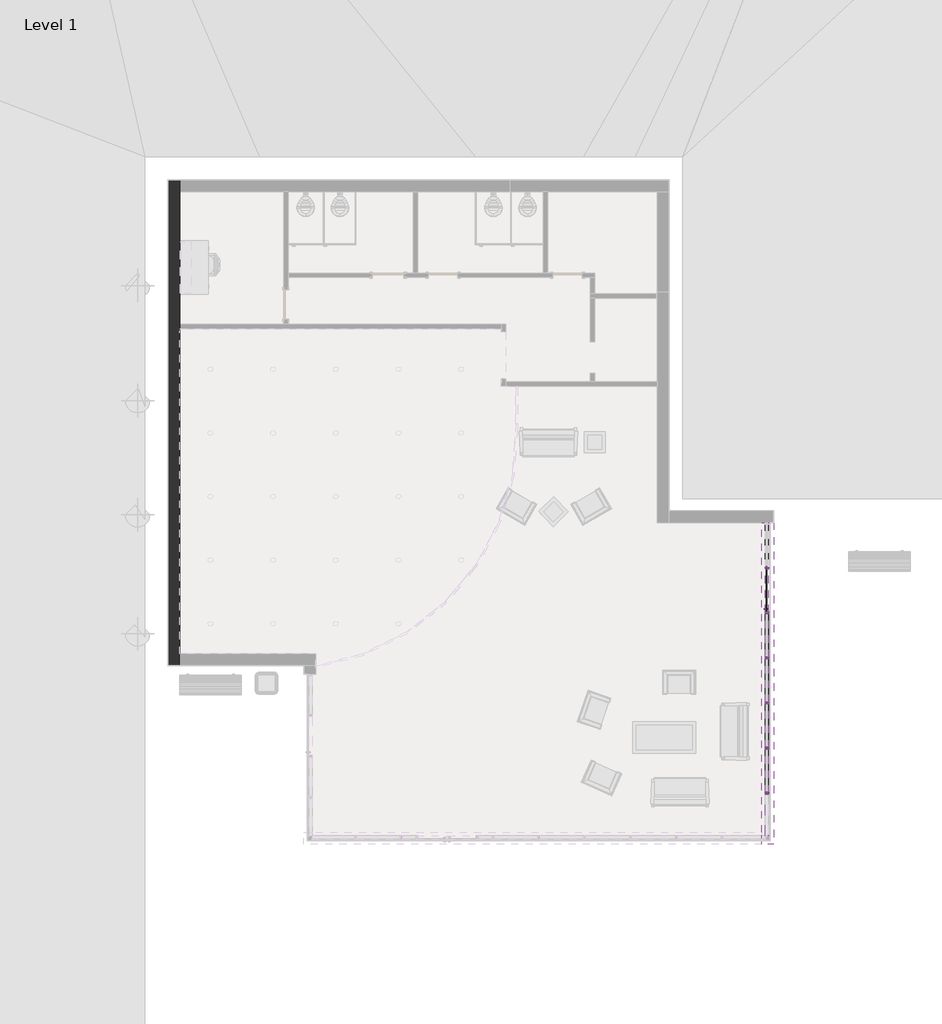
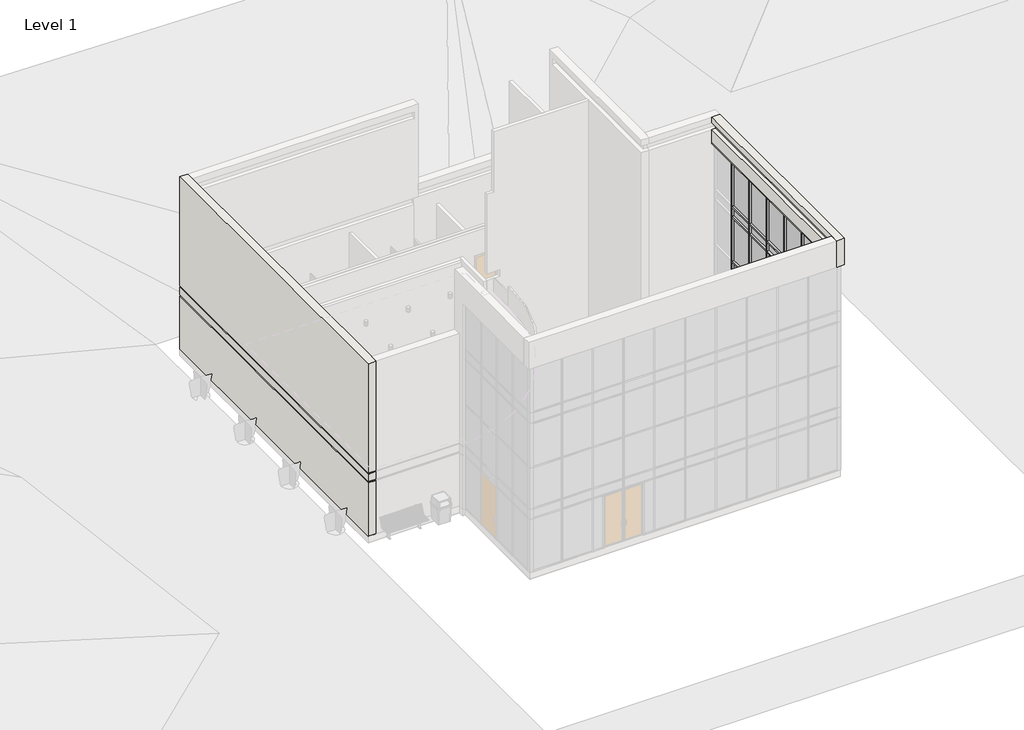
# One storey, part 4 of 6: 76 members, 28 plates, 2 walls, 1 door.
"""IFC4 building model written with IfcOpenShell, lengths in millimetres."""

from ifc_helpers import new_model, si_unit, origin, place, context, project, spatial, faceted_brep, transform, mapped, element, save
from components import curtain_wall_sgl_glass_curtain_wall_sgl_glass_6e947e4e, rectangular_mullion_50_x_150mm_a98d9a75, rectangular_mullion_50_x_150mm_e5e1dcca, rectangular_mullion_50_x_150mm_47c0eb49, rectangular_mullion_50_x_150mm_2677f012, rectangular_mullion_50_x_150mm_55a91b40, rectangular_mullion_50_x_150mm_fb94c6f7, rectangular_mullion_50_x_150mm_5de8f13b, rectangular_mullion_50_x_150mm_bd4d183d, rectangular_mullion_50_x_150mm_dd91e440, system_panel_glazed_1235180c, system_panel_glazed_c553e61d, system_panel_glazed_59e3bf6d, system_panel_glazed_48263e64, system_panel_glazed_91421042

model = new_model("IFC4")

# Units and contexts
model_context = context("Model", 3, world=origin())
ifc_project = project(units=[si_unit("LENGTHUNIT", "METRE", prefix="MILLI")], contexts=[model_context])

# Site, building, storey
site = spatial("IfcSite", under=ifc_project)
building = spatial("IfcBuilding", under=site)
storey = spatial("IfcBuildingStorey", under=building, Name="Level 1", Elevation=45720.0)

# Door
placement = place(None, origin())
curtain_wall_sgl_glass_curtain_wall_sgl_glass_shape = curtain_wall_sgl_glass_curtain_wall_sgl_glass_6e947e4e(model_context)
element("IfcDoor", 1, ObjectType="Curtain Wall Sgl Glass : Curtain Wall Sgl Glass", at=placement, inside=storey, context=model_context, shape_type="MappedRepresentation", body=[
    mapped(curtain_wall_sgl_glass_curtain_wall_sgl_glass_shape, transform((3237.9561928, -873.7818307, 45720.0), x_axis=(0.0, 1.0, 0.0), y_axis=(-1.0, 0.0, 0.0), z_axis=(0.0, 0.0, 1.0))),
])

# Members
rectangular_mullion_50_x_150mm_shape = rectangular_mullion_50_x_150mm_a98d9a75(model_context)
element("IfcMember", 2, ObjectType="Rectangular Mullion : 50 x 150mm", at=placement, inside=storey, context=model_context, shape_type="MappedRepresentation", body=[
    mapped(rectangular_mullion_50_x_150mm_shape, transform((3237.9561928, -6793.7818307, 45720.0), x_axis=(0.0, 1.0, 0.0), y_axis=(1.0, 0.0, 0.0), z_axis=(0.0, 0.0, -1.0))),
])
element("IfcMember", 3, ObjectType="Rectangular Mullion : 50 x 150mm", at=placement, inside=storey, context=model_context, shape_type="MappedRepresentation", body=[
    mapped(rectangular_mullion_50_x_150mm_shape, transform((3237.9561928, -5478.2262751, 45720.0), x_axis=(0.0, 1.0, 0.0), y_axis=(1.0, 0.0, 0.0), z_axis=(0.0, 0.0, -1.0))),
])
element("IfcMember", 4, ObjectType="Rectangular Mullion : 50 x 150mm", at=placement, inside=storey, context=model_context, shape_type="MappedRepresentation", body=[
    mapped(rectangular_mullion_50_x_150mm_shape, transform((3237.9561928, -4162.6707196, 45720.0), x_axis=(0.0, 1.0, 0.0), y_axis=(1.0, 0.0, 0.0), z_axis=(0.0, 0.0, -1.0))),
])
element("IfcMember", 5, ObjectType="Rectangular Mullion : 50 x 150mm", at=placement, inside=storey, context=model_context, shape_type="MappedRepresentation", body=[
    mapped(rectangular_mullion_50_x_150mm_shape, transform((3237.9561928, -2847.115164, 45720.0), x_axis=(0.0, 1.0, 0.0), y_axis=(1.0, 0.0, 0.0), z_axis=(0.0, 0.0, -1.0))),
])
element("IfcMember", 6, ObjectType="Rectangular Mullion : 50 x 150mm", at=placement, inside=storey, context=model_context, shape_type="MappedRepresentation", body=[
    mapped(rectangular_mullion_50_x_150mm_shape, transform((3237.9561928, -1531.5596084, 45720.0), x_axis=(0.0, 1.0, 0.0), y_axis=(1.0, 0.0, 0.0), z_axis=(0.0, 0.0, -1.0))),
])
element("IfcMember", 7, ObjectType="Rectangular Mullion : 50 x 150mm", at=placement, inside=storey, context=model_context, shape_type="MappedRepresentation", body=[
    mapped(rectangular_mullion_50_x_150mm_shape, transform((3237.9561928, -216.0040529, 45720.0), x_axis=(0.0, 1.0, 0.0), y_axis=(1.0, 0.0, 0.0), z_axis=(0.0, 0.0, -1.0))),
])
rectangular_mullion_50_x_150mm_2_shape = rectangular_mullion_50_x_150mm_e5e1dcca(model_context)
element("IfcMember", 8, ObjectType="Rectangular Mullion : 50 x 150mm", at=placement, inside=storey, context=model_context, shape_type="MappedRepresentation", body=[
    mapped(rectangular_mullion_50_x_150mm_2_shape, transform((3237.9561928, -6793.7818307, 48158.4), x_axis=(0.0, 1.0, 0.0), y_axis=(1.0, 0.0, 0.0), z_axis=(0.0, 0.0, -1.0))),
])
element("IfcMember", 9, ObjectType="Rectangular Mullion : 50 x 150mm", at=placement, inside=storey, context=model_context, shape_type="MappedRepresentation", body=[
    mapped(rectangular_mullion_50_x_150mm_2_shape, transform((3237.9561928, -5478.2262751, 48158.4), x_axis=(0.0, 1.0, 0.0), y_axis=(1.0, 0.0, 0.0), z_axis=(0.0, 0.0, -1.0))),
])
element("IfcMember", 10, ObjectType="Rectangular Mullion : 50 x 150mm", at=placement, inside=storey, context=model_context, shape_type="MappedRepresentation", body=[
    mapped(rectangular_mullion_50_x_150mm_2_shape, transform((3237.9561928, -4162.6707196, 48158.4), x_axis=(0.0, 1.0, 0.0), y_axis=(1.0, 0.0, 0.0), z_axis=(0.0, 0.0, -1.0))),
])
element("IfcMember", 11, ObjectType="Rectangular Mullion : 50 x 150mm", at=placement, inside=storey, context=model_context, shape_type="MappedRepresentation", body=[
    mapped(rectangular_mullion_50_x_150mm_2_shape, transform((3237.9561928, -2847.115164, 48158.4), x_axis=(0.0, 1.0, 0.0), y_axis=(1.0, 0.0, 0.0), z_axis=(0.0, 0.0, -1.0))),
])
element("IfcMember", 12, ObjectType="Rectangular Mullion : 50 x 150mm", at=placement, inside=storey, context=model_context, shape_type="MappedRepresentation", body=[
    mapped(rectangular_mullion_50_x_150mm_2_shape, transform((3237.9561928, -1531.5596084, 48158.4), x_axis=(0.0, 1.0, 0.0), y_axis=(1.0, 0.0, 0.0), z_axis=(0.0, 0.0, -1.0))),
])
element("IfcMember", 13, ObjectType="Rectangular Mullion : 50 x 150mm", at=placement, inside=storey, context=model_context, shape_type="MappedRepresentation", body=[
    mapped(rectangular_mullion_50_x_150mm_2_shape, transform((3237.9561928, -216.0040529, 48158.4), x_axis=(0.0, 1.0, 0.0), y_axis=(1.0, 0.0, 0.0), z_axis=(0.0, 0.0, -1.0))),
])
element("IfcMember", 14, ObjectType="Rectangular Mullion : 50 x 150mm", at=placement, inside=storey, context=model_context, shape_type="MappedRepresentation", body=[
    mapped(rectangular_mullion_50_x_150mm_2_shape, transform((3237.9561928, -6793.7818307, 52578.0), x_axis=(0.0, 1.0, 0.0), y_axis=(1.0, 0.0, 0.0), z_axis=(0.0, 0.0, -1.0))),
])
element("IfcMember", 15, ObjectType="Rectangular Mullion : 50 x 150mm", at=placement, inside=storey, context=model_context, shape_type="MappedRepresentation", body=[
    mapped(rectangular_mullion_50_x_150mm_2_shape, transform((3237.9561928, -5478.2262751, 52578.0), x_axis=(0.0, 1.0, 0.0), y_axis=(1.0, 0.0, 0.0), z_axis=(0.0, 0.0, -1.0))),
])
element("IfcMember", 16, ObjectType="Rectangular Mullion : 50 x 150mm", at=placement, inside=storey, context=model_context, shape_type="MappedRepresentation", body=[
    mapped(rectangular_mullion_50_x_150mm_2_shape, transform((3237.9561928, -4162.6707196, 52578.0), x_axis=(0.0, 1.0, 0.0), y_axis=(1.0, 0.0, 0.0), z_axis=(0.0, 0.0, -1.0))),
])
element("IfcMember", 17, ObjectType="Rectangular Mullion : 50 x 150mm", at=placement, inside=storey, context=model_context, shape_type="MappedRepresentation", body=[
    mapped(rectangular_mullion_50_x_150mm_2_shape, transform((3237.9561928, -2847.115164, 52578.0), x_axis=(0.0, 1.0, 0.0), y_axis=(1.0, 0.0, 0.0), z_axis=(0.0, 0.0, -1.0))),
])
element("IfcMember", 18, ObjectType="Rectangular Mullion : 50 x 150mm", at=placement, inside=storey, context=model_context, shape_type="MappedRepresentation", body=[
    mapped(rectangular_mullion_50_x_150mm_2_shape, transform((3237.9561928, -1531.5596084, 52578.0), x_axis=(0.0, 1.0, 0.0), y_axis=(1.0, 0.0, 0.0), z_axis=(0.0, 0.0, -1.0))),
])
element("IfcMember", 19, ObjectType="Rectangular Mullion : 50 x 150mm", at=placement, inside=storey, context=model_context, shape_type="MappedRepresentation", body=[
    mapped(rectangular_mullion_50_x_150mm_2_shape, transform((3237.9561928, -216.0040529, 52578.0), x_axis=(0.0, 1.0, 0.0), y_axis=(1.0, 0.0, 0.0), z_axis=(0.0, 0.0, -1.0))),
])
rectangular_mullion_50_x_150mm_3_shape = rectangular_mullion_50_x_150mm_47c0eb49(model_context)
element("IfcMember", 20, ObjectType="Rectangular Mullion : 50 x 150mm", at=placement, inside=storey, context=model_context, shape_type="MappedRepresentation", body=[
    mapped(rectangular_mullion_50_x_150mm_3_shape, transform((3237.9561928, -6793.7818307, 50520.0), x_axis=(0.0, 1.0, 0.0), y_axis=(1.0, 0.0, 0.0), z_axis=(0.0, 0.0, -1.0))),
])
element("IfcMember", 21, ObjectType="Rectangular Mullion : 50 x 150mm", at=placement, inside=storey, context=model_context, shape_type="MappedRepresentation", body=[
    mapped(rectangular_mullion_50_x_150mm_3_shape, transform((3237.9561928, -5478.2262751, 50520.0), x_axis=(0.0, 1.0, 0.0), y_axis=(1.0, 0.0, 0.0), z_axis=(0.0, 0.0, -1.0))),
])
element("IfcMember", 22, ObjectType="Rectangular Mullion : 50 x 150mm", at=placement, inside=storey, context=model_context, shape_type="MappedRepresentation", body=[
    mapped(rectangular_mullion_50_x_150mm_3_shape, transform((3237.9561928, -4162.6707196, 50520.0), x_axis=(0.0, 1.0, 0.0), y_axis=(1.0, 0.0, 0.0), z_axis=(0.0, 0.0, -1.0))),
])
element("IfcMember", 23, ObjectType="Rectangular Mullion : 50 x 150mm", at=placement, inside=storey, context=model_context, shape_type="MappedRepresentation", body=[
    mapped(rectangular_mullion_50_x_150mm_3_shape, transform((3237.9561928, -2847.115164, 50520.0), x_axis=(0.0, 1.0, 0.0), y_axis=(1.0, 0.0, 0.0), z_axis=(0.0, 0.0, -1.0))),
])
element("IfcMember", 24, ObjectType="Rectangular Mullion : 50 x 150mm", at=placement, inside=storey, context=model_context, shape_type="MappedRepresentation", body=[
    mapped(rectangular_mullion_50_x_150mm_3_shape, transform((3237.9561928, -1531.5596084, 50520.0), x_axis=(0.0, 1.0, 0.0), y_axis=(1.0, 0.0, 0.0), z_axis=(0.0, 0.0, -1.0))),
])
element("IfcMember", 25, ObjectType="Rectangular Mullion : 50 x 150mm", at=placement, inside=storey, context=model_context, shape_type="MappedRepresentation", body=[
    mapped(rectangular_mullion_50_x_150mm_3_shape, transform((3237.9561928, -216.0040529, 50520.0), x_axis=(0.0, 1.0, 0.0), y_axis=(1.0, 0.0, 0.0), z_axis=(0.0, 0.0, -1.0))),
])
rectangular_mullion_50_x_150mm_4_shape = rectangular_mullion_50_x_150mm_2677f012(model_context)
element("IfcMember", 26, ObjectType="Rectangular Mullion : 50 x 150mm", at=placement, inside=storey, context=model_context, shape_type="MappedRepresentation", body=[
    mapped(rectangular_mullion_50_x_150mm_4_shape, transform((3237.9561928, -6793.7818307, 53035.2), x_axis=(0.0, 1.0, 0.0), y_axis=(1.0, 0.0, 0.0), z_axis=(0.0, 0.0, -1.0))),
])
element("IfcMember", 27, ObjectType="Rectangular Mullion : 50 x 150mm", at=placement, inside=storey, context=model_context, shape_type="MappedRepresentation", body=[
    mapped(rectangular_mullion_50_x_150mm_4_shape, transform((3237.9561928, -5478.2262751, 53035.2), x_axis=(0.0, 1.0, 0.0), y_axis=(1.0, 0.0, 0.0), z_axis=(0.0, 0.0, -1.0))),
])
element("IfcMember", 28, ObjectType="Rectangular Mullion : 50 x 150mm", at=placement, inside=storey, context=model_context, shape_type="MappedRepresentation", body=[
    mapped(rectangular_mullion_50_x_150mm_4_shape, transform((3237.9561928, -4162.6707196, 53035.2), x_axis=(0.0, 1.0, 0.0), y_axis=(1.0, 0.0, 0.0), z_axis=(0.0, 0.0, -1.0))),
])
element("IfcMember", 29, ObjectType="Rectangular Mullion : 50 x 150mm", at=placement, inside=storey, context=model_context, shape_type="MappedRepresentation", body=[
    mapped(rectangular_mullion_50_x_150mm_4_shape, transform((3237.9561928, -2847.115164, 53035.2), x_axis=(0.0, 1.0, 0.0), y_axis=(1.0, 0.0, 0.0), z_axis=(0.0, 0.0, -1.0))),
])
element("IfcMember", 30, ObjectType="Rectangular Mullion : 50 x 150mm", at=placement, inside=storey, context=model_context, shape_type="MappedRepresentation", body=[
    mapped(rectangular_mullion_50_x_150mm_4_shape, transform((3237.9561928, -1531.5596084, 53035.2), x_axis=(0.0, 1.0, 0.0), y_axis=(1.0, 0.0, 0.0), z_axis=(0.0, 0.0, -1.0))),
])
element("IfcMember", 31, ObjectType="Rectangular Mullion : 50 x 150mm", at=placement, inside=storey, context=model_context, shape_type="MappedRepresentation", body=[
    mapped(rectangular_mullion_50_x_150mm_4_shape, transform((3237.9561928, -216.0040529, 53035.2), x_axis=(0.0, 1.0, 0.0), y_axis=(1.0, 0.0, 0.0), z_axis=(0.0, 0.0, -1.0))),
])
rectangular_mullion_50_x_150mm_5_shape = rectangular_mullion_50_x_150mm_55a91b40(model_context)
element("IfcMember", 32, ObjectType="Rectangular Mullion : 50 x 150mm", at=placement, inside=storey, context=model_context, shape_type="MappedRepresentation", body=[
    mapped(rectangular_mullion_50_x_150mm_5_shape, transform((3237.9561928, -6793.7818307, 48615.6), x_axis=(0.0, 1.0, 0.0), y_axis=(1.0, 0.0, 0.0), z_axis=(0.0, 0.0, -1.0))),
])
element("IfcMember", 33, ObjectType="Rectangular Mullion : 50 x 150mm", at=placement, inside=storey, context=model_context, shape_type="MappedRepresentation", body=[
    mapped(rectangular_mullion_50_x_150mm_5_shape, transform((3237.9561928, -5478.2262751, 48615.6), x_axis=(0.0, 1.0, 0.0), y_axis=(1.0, 0.0, 0.0), z_axis=(0.0, 0.0, -1.0))),
])
element("IfcMember", 34, ObjectType="Rectangular Mullion : 50 x 150mm", at=placement, inside=storey, context=model_context, shape_type="MappedRepresentation", body=[
    mapped(rectangular_mullion_50_x_150mm_5_shape, transform((3237.9561928, -4162.6707196, 48615.6), x_axis=(0.0, 1.0, 0.0), y_axis=(1.0, 0.0, 0.0), z_axis=(0.0, 0.0, -1.0))),
])
element("IfcMember", 35, ObjectType="Rectangular Mullion : 50 x 150mm", at=placement, inside=storey, context=model_context, shape_type="MappedRepresentation", body=[
    mapped(rectangular_mullion_50_x_150mm_5_shape, transform((3237.9561928, -2847.115164, 48615.6), x_axis=(0.0, 1.0, 0.0), y_axis=(1.0, 0.0, 0.0), z_axis=(0.0, 0.0, -1.0))),
])
element("IfcMember", 36, ObjectType="Rectangular Mullion : 50 x 150mm", at=placement, inside=storey, context=model_context, shape_type="MappedRepresentation", body=[
    mapped(rectangular_mullion_50_x_150mm_5_shape, transform((3237.9561928, -1531.5596084, 48615.6), x_axis=(0.0, 1.0, 0.0), y_axis=(1.0, 0.0, 0.0), z_axis=(0.0, 0.0, -1.0))),
])
element("IfcMember", 37, ObjectType="Rectangular Mullion : 50 x 150mm", at=placement, inside=storey, context=model_context, shape_type="MappedRepresentation", body=[
    mapped(rectangular_mullion_50_x_150mm_5_shape, transform((3237.9561928, -216.0040529, 48615.6), x_axis=(0.0, 1.0, 0.0), y_axis=(1.0, 0.0, 0.0), z_axis=(0.0, 0.0, -1.0))),
])
rectangular_mullion_50_x_150mm_6_shape = rectangular_mullion_50_x_150mm_fb94c6f7(model_context)
element("IfcMember", 38, ObjectType="Rectangular Mullion : 50 x 150mm", at=placement, inside=storey, context=model_context, shape_type="MappedRepresentation", body=[
    mapped(rectangular_mullion_50_x_150mm_6_shape, transform((3237.9561928, -5503.2262751, 55168.8), x_axis=(0.0, 0.0, 1.0), y_axis=(1.0, 0.0, 0.0), z_axis=(0.0, 1.0, 0.0))),
])
element("IfcMember", 39, ObjectType="Rectangular Mullion : 50 x 150mm", at=placement, inside=storey, context=model_context, shape_type="MappedRepresentation", body=[
    mapped(rectangular_mullion_50_x_150mm_6_shape, transform((3237.9561928, -4187.6707196, 55168.8), x_axis=(0.0, 0.0, 1.0), y_axis=(1.0, 0.0, 0.0), z_axis=(0.0, 1.0, 0.0))),
])
element("IfcMember", 40, ObjectType="Rectangular Mullion : 50 x 150mm", at=placement, inside=storey, context=model_context, shape_type="MappedRepresentation", body=[
    mapped(rectangular_mullion_50_x_150mm_6_shape, transform((3237.9561928, -2872.115164, 55168.8), x_axis=(0.0, 0.0, 1.0), y_axis=(1.0, 0.0, 0.0), z_axis=(0.0, 1.0, 0.0))),
])
element("IfcMember", 41, ObjectType="Rectangular Mullion : 50 x 150mm", at=placement, inside=storey, context=model_context, shape_type="MappedRepresentation", body=[
    mapped(rectangular_mullion_50_x_150mm_6_shape, transform((3237.9561928, -1556.5596084, 55168.8), x_axis=(0.0, 0.0, 1.0), y_axis=(1.0, 0.0, 0.0), z_axis=(0.0, 1.0, 0.0))),
])
element("IfcMember", 42, ObjectType="Rectangular Mullion : 50 x 150mm", at=placement, inside=storey, context=model_context, shape_type="MappedRepresentation", body=[
    mapped(rectangular_mullion_50_x_150mm_6_shape, transform((3237.9561928, -241.0040529, 55168.8), x_axis=(0.0, 0.0, 1.0), y_axis=(1.0, 0.0, 0.0), z_axis=(0.0, 1.0, 0.0))),
])
element("IfcMember", 43, ObjectType="Rectangular Mullion : 50 x 150mm", at=placement, inside=storey, context=model_context, shape_type="MappedRepresentation", body=[
    mapped(rectangular_mullion_50_x_150mm_6_shape, transform((3237.9561928, -6768.7818307, 45720.0), x_axis=(0.0, 0.0, -1.0), y_axis=(1.0, 0.0, 0.0), z_axis=(0.0, -1.0, 0.0))),
])
element("IfcMember", 44, ObjectType="Rectangular Mullion : 50 x 150mm", at=placement, inside=storey, context=model_context, shape_type="MappedRepresentation", body=[
    mapped(rectangular_mullion_50_x_150mm_6_shape, transform((3237.9561928, -5453.2262751, 45720.0), x_axis=(0.0, 0.0, -1.0), y_axis=(1.0, 0.0, 0.0), z_axis=(0.0, -1.0, 0.0))),
])
element("IfcMember", 45, ObjectType="Rectangular Mullion : 50 x 150mm", at=placement, inside=storey, context=model_context, shape_type="MappedRepresentation", body=[
    mapped(rectangular_mullion_50_x_150mm_6_shape, transform((3237.9561928, -4137.6707196, 45720.0), x_axis=(0.0, 0.0, -1.0), y_axis=(1.0, 0.0, 0.0), z_axis=(0.0, -1.0, 0.0))),
])
element("IfcMember", 46, ObjectType="Rectangular Mullion : 50 x 150mm", at=placement, inside=storey, context=model_context, shape_type="MappedRepresentation", body=[
    mapped(rectangular_mullion_50_x_150mm_6_shape, transform((3237.9561928, -2822.115164, 45720.0), x_axis=(0.0, 0.0, -1.0), y_axis=(1.0, 0.0, 0.0), z_axis=(0.0, -1.0, 0.0))),
])
rectangular_mullion_50_x_150mm_7_shape = rectangular_mullion_50_x_150mm_5de8f13b(model_context)
element("IfcMember", 47, ObjectType="Rectangular Mullion : 50 x 150mm", at=placement, inside=storey, context=model_context, shape_type="MappedRepresentation", body=[
    mapped(rectangular_mullion_50_x_150mm_7_shape, transform((3237.9561928, -5503.2262751, 48158.4), x_axis=(0.0, 0.0, 1.0), y_axis=(1.0, 0.0, 0.0), z_axis=(0.0, 1.0, 0.0))),
])
element("IfcMember", 48, ObjectType="Rectangular Mullion : 50 x 150mm", at=placement, inside=storey, context=model_context, shape_type="MappedRepresentation", body=[
    mapped(rectangular_mullion_50_x_150mm_7_shape, transform((3237.9561928, -4187.6707196, 48158.4), x_axis=(0.0, 0.0, 1.0), y_axis=(1.0, 0.0, 0.0), z_axis=(0.0, 1.0, 0.0))),
])
element("IfcMember", 49, ObjectType="Rectangular Mullion : 50 x 150mm", at=placement, inside=storey, context=model_context, shape_type="MappedRepresentation", body=[
    mapped(rectangular_mullion_50_x_150mm_7_shape, transform((3237.9561928, -2872.115164, 48158.4), x_axis=(0.0, 0.0, 1.0), y_axis=(1.0, 0.0, 0.0), z_axis=(0.0, 1.0, 0.0))),
])
element("IfcMember", 50, ObjectType="Rectangular Mullion : 50 x 150mm", at=placement, inside=storey, context=model_context, shape_type="MappedRepresentation", body=[
    mapped(rectangular_mullion_50_x_150mm_7_shape, transform((3237.9561928, -1556.5596084, 48158.4), x_axis=(0.0, 0.0, 1.0), y_axis=(1.0, 0.0, 0.0), z_axis=(0.0, 1.0, 0.0))),
])
element("IfcMember", 51, ObjectType="Rectangular Mullion : 50 x 150mm", at=placement, inside=storey, context=model_context, shape_type="MappedRepresentation", body=[
    mapped(rectangular_mullion_50_x_150mm_7_shape, transform((3237.9561928, -241.0040529, 48158.4), x_axis=(0.0, 0.0, 1.0), y_axis=(1.0, 0.0, 0.0), z_axis=(0.0, 1.0, 0.0))),
])
element("IfcMember", 52, ObjectType="Rectangular Mullion : 50 x 150mm", at=placement, inside=storey, context=model_context, shape_type="MappedRepresentation", body=[
    mapped(rectangular_mullion_50_x_150mm_7_shape, transform((3237.9561928, -5503.2262751, 50520.0), x_axis=(0.0, 0.0, 1.0), y_axis=(1.0, 0.0, 0.0), z_axis=(0.0, 1.0, 0.0))),
])
element("IfcMember", 53, ObjectType="Rectangular Mullion : 50 x 150mm", at=placement, inside=storey, context=model_context, shape_type="MappedRepresentation", body=[
    mapped(rectangular_mullion_50_x_150mm_7_shape, transform((3237.9561928, -4187.6707196, 50520.0), x_axis=(0.0, 0.0, 1.0), y_axis=(1.0, 0.0, 0.0), z_axis=(0.0, 1.0, 0.0))),
])
element("IfcMember", 54, ObjectType="Rectangular Mullion : 50 x 150mm", at=placement, inside=storey, context=model_context, shape_type="MappedRepresentation", body=[
    mapped(rectangular_mullion_50_x_150mm_7_shape, transform((3237.9561928, -2872.115164, 50520.0), x_axis=(0.0, 0.0, 1.0), y_axis=(1.0, 0.0, 0.0), z_axis=(0.0, 1.0, 0.0))),
])
element("IfcMember", 55, ObjectType="Rectangular Mullion : 50 x 150mm", at=placement, inside=storey, context=model_context, shape_type="MappedRepresentation", body=[
    mapped(rectangular_mullion_50_x_150mm_7_shape, transform((3237.9561928, -1556.5596084, 50520.0), x_axis=(0.0, 0.0, 1.0), y_axis=(1.0, 0.0, 0.0), z_axis=(0.0, 1.0, 0.0))),
])
element("IfcMember", 56, ObjectType="Rectangular Mullion : 50 x 150mm", at=placement, inside=storey, context=model_context, shape_type="MappedRepresentation", body=[
    mapped(rectangular_mullion_50_x_150mm_7_shape, transform((3237.9561928, -241.0040529, 50520.0), x_axis=(0.0, 0.0, 1.0), y_axis=(1.0, 0.0, 0.0), z_axis=(0.0, 1.0, 0.0))),
])
element("IfcMember", 57, ObjectType="Rectangular Mullion : 50 x 150mm", at=placement, inside=storey, context=model_context, shape_type="MappedRepresentation", body=[
    mapped(rectangular_mullion_50_x_150mm_7_shape, transform((3237.9561928, -5503.2262751, 53035.2), x_axis=(0.0, 0.0, 1.0), y_axis=(1.0, 0.0, 0.0), z_axis=(0.0, 1.0, 0.0))),
])
element("IfcMember", 58, ObjectType="Rectangular Mullion : 50 x 150mm", at=placement, inside=storey, context=model_context, shape_type="MappedRepresentation", body=[
    mapped(rectangular_mullion_50_x_150mm_7_shape, transform((3237.9561928, -4187.6707196, 53035.2), x_axis=(0.0, 0.0, 1.0), y_axis=(1.0, 0.0, 0.0), z_axis=(0.0, 1.0, 0.0))),
])
element("IfcMember", 59, ObjectType="Rectangular Mullion : 50 x 150mm", at=placement, inside=storey, context=model_context, shape_type="MappedRepresentation", body=[
    mapped(rectangular_mullion_50_x_150mm_7_shape, transform((3237.9561928, -2872.115164, 53035.2), x_axis=(0.0, 0.0, 1.0), y_axis=(1.0, 0.0, 0.0), z_axis=(0.0, 1.0, 0.0))),
])
element("IfcMember", 60, ObjectType="Rectangular Mullion : 50 x 150mm", at=placement, inside=storey, context=model_context, shape_type="MappedRepresentation", body=[
    mapped(rectangular_mullion_50_x_150mm_7_shape, transform((3237.9561928, -1556.5596084, 53035.2), x_axis=(0.0, 0.0, 1.0), y_axis=(1.0, 0.0, 0.0), z_axis=(0.0, 1.0, 0.0))),
])
element("IfcMember", 61, ObjectType="Rectangular Mullion : 50 x 150mm", at=placement, inside=storey, context=model_context, shape_type="MappedRepresentation", body=[
    mapped(rectangular_mullion_50_x_150mm_7_shape, transform((3237.9561928, -241.0040529, 53035.2), x_axis=(0.0, 0.0, 1.0), y_axis=(1.0, 0.0, 0.0), z_axis=(0.0, 1.0, 0.0))),
])
element("IfcMember", 62, ObjectType="Rectangular Mullion : 50 x 150mm", at=placement, inside=storey, context=model_context, shape_type="MappedRepresentation", body=[
    mapped(rectangular_mullion_50_x_150mm_7_shape, transform((3237.9561928, -5503.2262751, 52578.0), x_axis=(0.0, 0.0, 1.0), y_axis=(1.0, 0.0, 0.0), z_axis=(0.0, 1.0, 0.0))),
])
element("IfcMember", 63, ObjectType="Rectangular Mullion : 50 x 150mm", at=placement, inside=storey, context=model_context, shape_type="MappedRepresentation", body=[
    mapped(rectangular_mullion_50_x_150mm_7_shape, transform((3237.9561928, -4187.6707196, 52578.0), x_axis=(0.0, 0.0, 1.0), y_axis=(1.0, 0.0, 0.0), z_axis=(0.0, 1.0, 0.0))),
])
element("IfcMember", 64, ObjectType="Rectangular Mullion : 50 x 150mm", at=placement, inside=storey, context=model_context, shape_type="MappedRepresentation", body=[
    mapped(rectangular_mullion_50_x_150mm_7_shape, transform((3237.9561928, -2872.115164, 52578.0), x_axis=(0.0, 0.0, 1.0), y_axis=(1.0, 0.0, 0.0), z_axis=(0.0, 1.0, 0.0))),
])
element("IfcMember", 65, ObjectType="Rectangular Mullion : 50 x 150mm", at=placement, inside=storey, context=model_context, shape_type="MappedRepresentation", body=[
    mapped(rectangular_mullion_50_x_150mm_7_shape, transform((3237.9561928, -1556.5596084, 52578.0), x_axis=(0.0, 0.0, 1.0), y_axis=(1.0, 0.0, 0.0), z_axis=(0.0, 1.0, 0.0))),
])
element("IfcMember", 66, ObjectType="Rectangular Mullion : 50 x 150mm", at=placement, inside=storey, context=model_context, shape_type="MappedRepresentation", body=[
    mapped(rectangular_mullion_50_x_150mm_7_shape, transform((3237.9561928, -241.0040529, 52578.0), x_axis=(0.0, 0.0, 1.0), y_axis=(1.0, 0.0, 0.0), z_axis=(0.0, 1.0, 0.0))),
])
element("IfcMember", 67, ObjectType="Rectangular Mullion : 50 x 150mm", at=placement, inside=storey, context=model_context, shape_type="MappedRepresentation", body=[
    mapped(rectangular_mullion_50_x_150mm_7_shape, transform((3237.9561928, -5503.2262751, 48615.6), x_axis=(0.0, 0.0, 1.0), y_axis=(1.0, 0.0, 0.0), z_axis=(0.0, 1.0, 0.0))),
])
element("IfcMember", 68, ObjectType="Rectangular Mullion : 50 x 150mm", at=placement, inside=storey, context=model_context, shape_type="MappedRepresentation", body=[
    mapped(rectangular_mullion_50_x_150mm_7_shape, transform((3237.9561928, -4187.6707196, 48615.6), x_axis=(0.0, 0.0, 1.0), y_axis=(1.0, 0.0, 0.0), z_axis=(0.0, 1.0, 0.0))),
])
element("IfcMember", 69, ObjectType="Rectangular Mullion : 50 x 150mm", at=placement, inside=storey, context=model_context, shape_type="MappedRepresentation", body=[
    mapped(rectangular_mullion_50_x_150mm_7_shape, transform((3237.9561928, -2872.115164, 48615.6), x_axis=(0.0, 0.0, 1.0), y_axis=(1.0, 0.0, 0.0), z_axis=(0.0, 1.0, 0.0))),
])
element("IfcMember", 70, ObjectType="Rectangular Mullion : 50 x 150mm", at=placement, inside=storey, context=model_context, shape_type="MappedRepresentation", body=[
    mapped(rectangular_mullion_50_x_150mm_7_shape, transform((3237.9561928, -1556.5596084, 48615.6), x_axis=(0.0, 0.0, 1.0), y_axis=(1.0, 0.0, 0.0), z_axis=(0.0, 1.0, 0.0))),
])
element("IfcMember", 71, ObjectType="Rectangular Mullion : 50 x 150mm", at=placement, inside=storey, context=model_context, shape_type="MappedRepresentation", body=[
    mapped(rectangular_mullion_50_x_150mm_7_shape, transform((3237.9561928, -241.0040529, 48615.6), x_axis=(0.0, 0.0, 1.0), y_axis=(1.0, 0.0, 0.0), z_axis=(0.0, 1.0, 0.0))),
])
rectangular_mullion_50_x_150mm_8_shape = rectangular_mullion_50_x_150mm_bd4d183d(model_context)
element("IfcMember", 72, ObjectType="Rectangular Mullion : 50 x 150mm", at=placement, inside=storey, context=model_context, shape_type="MappedRepresentation", body=[
    mapped(rectangular_mullion_50_x_150mm_8_shape, transform((3237.9561928, -191.0040529, 45720.0), x_axis=(0.0, 0.0, -1.0), y_axis=(1.0, 0.0, 0.0), z_axis=(0.0, -1.0, 0.0))),
])
rectangular_mullion_50_x_150mm_9_shape = rectangular_mullion_50_x_150mm_dd91e440(model_context)
element("IfcMember", 73, ObjectType="Rectangular Mullion : 50 x 150mm", at=placement, inside=storey, context=model_context, shape_type="MappedRepresentation", body=[
    mapped(rectangular_mullion_50_x_150mm_9_shape, transform((3237.9561928, -6818.7818307, 48158.4), x_axis=(0.0, 0.0, 1.0), y_axis=(1.0, 0.0, 0.0), z_axis=(0.0, 1.0, 0.0))),
])
element("IfcMember", 74, ObjectType="Rectangular Mullion : 50 x 150mm", at=placement, inside=storey, context=model_context, shape_type="MappedRepresentation", body=[
    mapped(rectangular_mullion_50_x_150mm_9_shape, transform((3237.9561928, -6818.7818307, 50520.0), x_axis=(0.0, 0.0, 1.0), y_axis=(1.0, 0.0, 0.0), z_axis=(0.0, 1.0, 0.0))),
])
element("IfcMember", 75, ObjectType="Rectangular Mullion : 50 x 150mm", at=placement, inside=storey, context=model_context, shape_type="MappedRepresentation", body=[
    mapped(rectangular_mullion_50_x_150mm_9_shape, transform((3237.9561928, -6818.7818307, 53035.2), x_axis=(0.0, 0.0, 1.0), y_axis=(1.0, 0.0, 0.0), z_axis=(0.0, 1.0, 0.0))),
])
element("IfcMember", 76, ObjectType="Rectangular Mullion : 50 x 150mm", at=placement, inside=storey, context=model_context, shape_type="MappedRepresentation", body=[
    mapped(rectangular_mullion_50_x_150mm_9_shape, transform((3237.9561928, -6818.7818307, 52578.0), x_axis=(0.0, 0.0, 1.0), y_axis=(1.0, 0.0, 0.0), z_axis=(0.0, 1.0, 0.0))),
])
element("IfcMember", 77, ObjectType="Rectangular Mullion : 50 x 150mm", at=placement, inside=storey, context=model_context, shape_type="MappedRepresentation", body=[
    mapped(rectangular_mullion_50_x_150mm_9_shape, transform((3237.9561928, -6818.7818307, 48615.6), x_axis=(0.0, 0.0, 1.0), y_axis=(1.0, 0.0, 0.0), z_axis=(0.0, 1.0, 0.0))),
])

# Plates
system_panel_glazed_shape = system_panel_glazed_1235180c(model_context)
element("IfcPlate", 78, ObjectType="System Panel : Glazed", at=placement, inside=storey, context=model_context, shape_type="MappedRepresentation", body=[
    mapped(system_panel_glazed_shape, transform((3237.9561928, -4820.4484973, 45770.0), x_axis=(0.0, 1.0, 0.0), y_axis=(-1.0, 0.0, 0.0), z_axis=(0.0, 0.0, 1.0))),
])
element("IfcPlate", 79, ObjectType="System Panel : Glazed", at=placement, inside=storey, context=model_context, shape_type="MappedRepresentation", body=[
    mapped(system_panel_glazed_shape, transform((3237.9561928, -3504.8929418, 45770.0), x_axis=(0.0, 1.0, 0.0), y_axis=(-1.0, 0.0, 0.0), z_axis=(0.0, 0.0, 1.0))),
])
element("IfcPlate", 80, ObjectType="System Panel : Glazed", at=placement, inside=storey, context=model_context, shape_type="MappedRepresentation", body=[
    mapped(system_panel_glazed_shape, transform((3237.9561928, -2189.3373862, 45770.0), x_axis=(0.0, 1.0, 0.0), y_axis=(-1.0, 0.0, 0.0), z_axis=(0.0, 0.0, 1.0))),
])
system_panel_glazed_2_shape = system_panel_glazed_c553e61d(model_context)
element("IfcPlate", 81, ObjectType="System Panel : Glazed", at=placement, inside=storey, context=model_context, shape_type="MappedRepresentation", body=[
    mapped(system_panel_glazed_2_shape, transform((3237.9561928, -6136.0040529, 48183.4), x_axis=(0.0, 1.0, 0.0), y_axis=(-1.0, 0.0, 0.0), z_axis=(0.0, 0.0, 1.0))),
])
element("IfcPlate", 82, ObjectType="System Panel : Glazed", at=placement, inside=storey, context=model_context, shape_type="MappedRepresentation", body=[
    mapped(system_panel_glazed_2_shape, transform((3237.9561928, -4820.4484973, 48183.4), x_axis=(0.0, 1.0, 0.0), y_axis=(-1.0, 0.0, 0.0), z_axis=(0.0, 0.0, 1.0))),
])
element("IfcPlate", 83, ObjectType="System Panel : Glazed", at=placement, inside=storey, context=model_context, shape_type="MappedRepresentation", body=[
    mapped(system_panel_glazed_2_shape, transform((3237.9561928, -3504.8929418, 48183.4), x_axis=(0.0, 1.0, 0.0), y_axis=(-1.0, 0.0, 0.0), z_axis=(0.0, 0.0, 1.0))),
])
element("IfcPlate", 84, ObjectType="System Panel : Glazed", at=placement, inside=storey, context=model_context, shape_type="MappedRepresentation", body=[
    mapped(system_panel_glazed_2_shape, transform((3237.9561928, -2189.3373862, 48183.4), x_axis=(0.0, 1.0, 0.0), y_axis=(-1.0, 0.0, 0.0), z_axis=(0.0, 0.0, 1.0))),
])
element("IfcPlate", 85, ObjectType="System Panel : Glazed", at=placement, inside=storey, context=model_context, shape_type="MappedRepresentation", body=[
    mapped(system_panel_glazed_2_shape, transform((3237.9561928, -873.7818307, 48183.4), x_axis=(0.0, 1.0, 0.0), y_axis=(-1.0, 0.0, 0.0), z_axis=(0.0, 0.0, 1.0))),
])
element("IfcPlate", 86, ObjectType="System Panel : Glazed", at=placement, inside=storey, context=model_context, shape_type="MappedRepresentation", body=[
    mapped(system_panel_glazed_2_shape, transform((3237.9561928, -6136.0040529, 52603.0), x_axis=(0.0, 1.0, 0.0), y_axis=(-1.0, 0.0, 0.0), z_axis=(0.0, 0.0, 1.0))),
])
element("IfcPlate", 87, ObjectType="System Panel : Glazed", at=placement, inside=storey, context=model_context, shape_type="MappedRepresentation", body=[
    mapped(system_panel_glazed_2_shape, transform((3237.9561928, -4820.4484973, 52603.0), x_axis=(0.0, 1.0, 0.0), y_axis=(-1.0, 0.0, 0.0), z_axis=(0.0, 0.0, 1.0))),
])
element("IfcPlate", 88, ObjectType="System Panel : Glazed", at=placement, inside=storey, context=model_context, shape_type="MappedRepresentation", body=[
    mapped(system_panel_glazed_2_shape, transform((3237.9561928, -3504.8929418, 52603.0), x_axis=(0.0, 1.0, 0.0), y_axis=(-1.0, 0.0, 0.0), z_axis=(0.0, 0.0, 1.0))),
])
element("IfcPlate", 89, ObjectType="System Panel : Glazed", at=placement, inside=storey, context=model_context, shape_type="MappedRepresentation", body=[
    mapped(system_panel_glazed_2_shape, transform((3237.9561928, -2189.3373862, 52603.0), x_axis=(0.0, 1.0, 0.0), y_axis=(-1.0, 0.0, 0.0), z_axis=(0.0, 0.0, 1.0))),
])
element("IfcPlate", 90, ObjectType="System Panel : Glazed", at=placement, inside=storey, context=model_context, shape_type="MappedRepresentation", body=[
    mapped(system_panel_glazed_2_shape, transform((3237.9561928, -873.7818307, 52603.0), x_axis=(0.0, 1.0, 0.0), y_axis=(-1.0, 0.0, 0.0), z_axis=(0.0, 0.0, 1.0))),
])
system_panel_glazed_3_shape = system_panel_glazed_59e3bf6d(model_context)
element("IfcPlate", 91, ObjectType="System Panel : Glazed", at=placement, inside=storey, context=model_context, shape_type="MappedRepresentation", body=[
    mapped(system_panel_glazed_3_shape, transform((3237.9561928, -6136.0040529, 50545.0), x_axis=(0.0, 1.0, 0.0), y_axis=(-1.0, 0.0, 0.0), z_axis=(0.0, 0.0, 1.0))),
])
element("IfcPlate", 92, ObjectType="System Panel : Glazed", at=placement, inside=storey, context=model_context, shape_type="MappedRepresentation", body=[
    mapped(system_panel_glazed_3_shape, transform((3237.9561928, -4820.4484973, 50545.0), x_axis=(0.0, 1.0, 0.0), y_axis=(-1.0, 0.0, 0.0), z_axis=(0.0, 0.0, 1.0))),
])
element("IfcPlate", 93, ObjectType="System Panel : Glazed", at=placement, inside=storey, context=model_context, shape_type="MappedRepresentation", body=[
    mapped(system_panel_glazed_3_shape, transform((3237.9561928, -3504.8929418, 50545.0), x_axis=(0.0, 1.0, 0.0), y_axis=(-1.0, 0.0, 0.0), z_axis=(0.0, 0.0, 1.0))),
])
element("IfcPlate", 94, ObjectType="System Panel : Glazed", at=placement, inside=storey, context=model_context, shape_type="MappedRepresentation", body=[
    mapped(system_panel_glazed_3_shape, transform((3237.9561928, -2189.3373862, 50545.0), x_axis=(0.0, 1.0, 0.0), y_axis=(-1.0, 0.0, 0.0), z_axis=(0.0, 0.0, 1.0))),
])
element("IfcPlate", 95, ObjectType="System Panel : Glazed", at=placement, inside=storey, context=model_context, shape_type="MappedRepresentation", body=[
    mapped(system_panel_glazed_3_shape, transform((3237.9561928, -873.7818307, 50545.0), x_axis=(0.0, 1.0, 0.0), y_axis=(-1.0, 0.0, 0.0), z_axis=(0.0, 0.0, 1.0))),
])
system_panel_glazed_4_shape = system_panel_glazed_48263e64(model_context)
element("IfcPlate", 96, ObjectType="System Panel : Glazed", at=placement, inside=storey, context=model_context, shape_type="MappedRepresentation", body=[
    mapped(system_panel_glazed_4_shape, transform((3237.9561928, -6136.0040529, 53060.2), x_axis=(0.0, 1.0, 0.0), y_axis=(-1.0, 0.0, 0.0), z_axis=(0.0, 0.0, 1.0))),
])
element("IfcPlate", 97, ObjectType="System Panel : Glazed", at=placement, inside=storey, context=model_context, shape_type="MappedRepresentation", body=[
    mapped(system_panel_glazed_4_shape, transform((3237.9561928, -4820.4484973, 53060.2), x_axis=(0.0, 1.0, 0.0), y_axis=(-1.0, 0.0, 0.0), z_axis=(0.0, 0.0, 1.0))),
])
element("IfcPlate", 98, ObjectType="System Panel : Glazed", at=placement, inside=storey, context=model_context, shape_type="MappedRepresentation", body=[
    mapped(system_panel_glazed_4_shape, transform((3237.9561928, -3504.8929418, 53060.2), x_axis=(0.0, 1.0, 0.0), y_axis=(-1.0, 0.0, 0.0), z_axis=(0.0, 0.0, 1.0))),
])
element("IfcPlate", 99, ObjectType="System Panel : Glazed", at=placement, inside=storey, context=model_context, shape_type="MappedRepresentation", body=[
    mapped(system_panel_glazed_4_shape, transform((3237.9561928, -2189.3373862, 53060.2), x_axis=(0.0, 1.0, 0.0), y_axis=(-1.0, 0.0, 0.0), z_axis=(0.0, 0.0, 1.0))),
])
element("IfcPlate", 100, ObjectType="System Panel : Glazed", at=placement, inside=storey, context=model_context, shape_type="MappedRepresentation", body=[
    mapped(system_panel_glazed_4_shape, transform((3237.9561928, -873.7818307, 53060.2), x_axis=(0.0, 1.0, 0.0), y_axis=(-1.0, 0.0, 0.0), z_axis=(0.0, 0.0, 1.0))),
])
system_panel_glazed_5_shape = system_panel_glazed_91421042(model_context)
element("IfcPlate", 101, ObjectType="System Panel : Glazed", at=placement, inside=storey, context=model_context, shape_type="MappedRepresentation", body=[
    mapped(system_panel_glazed_5_shape, transform((3237.9561928, -6136.0040529, 48640.6), x_axis=(0.0, 1.0, 0.0), y_axis=(-1.0, 0.0, 0.0), z_axis=(0.0, 0.0, 1.0))),
])
element("IfcPlate", 102, ObjectType="System Panel : Glazed", at=placement, inside=storey, context=model_context, shape_type="MappedRepresentation", body=[
    mapped(system_panel_glazed_5_shape, transform((3237.9561928, -4820.4484973, 48640.6), x_axis=(0.0, 1.0, 0.0), y_axis=(-1.0, 0.0, 0.0), z_axis=(0.0, 0.0, 1.0))),
])
element("IfcPlate", 103, ObjectType="System Panel : Glazed", at=placement, inside=storey, context=model_context, shape_type="MappedRepresentation", body=[
    mapped(system_panel_glazed_5_shape, transform((3237.9561928, -3504.8929418, 48640.6), x_axis=(0.0, 1.0, 0.0), y_axis=(-1.0, 0.0, 0.0), z_axis=(0.0, 0.0, 1.0))),
])
element("IfcPlate", 104, ObjectType="System Panel : Glazed", at=placement, inside=storey, context=model_context, shape_type="MappedRepresentation", body=[
    mapped(system_panel_glazed_5_shape, transform((3237.9561928, -2189.3373862, 48640.6), x_axis=(0.0, 1.0, 0.0), y_axis=(-1.0, 0.0, 0.0), z_axis=(0.0, 0.0, 1.0))),
])
element("IfcPlate", 105, ObjectType="System Panel : Glazed", at=placement, inside=storey, context=model_context, shape_type="MappedRepresentation", body=[
    mapped(system_panel_glazed_5_shape, transform((3237.9561928, -873.7818307, 48640.6), x_axis=(0.0, 1.0, 0.0), y_axis=(-1.0, 0.0, 0.0), z_axis=(0.0, 0.0, 1.0))),
])

# Walls
element("IfcWall", 106, ObjectType="Exterior - Brick on Mtl. Stud", at=placement, inside=storey, context=model_context, shape_type="Brep", body=[
    faceted_brep([(3061.2686928, -8285.5498862, 56388.0), (3061.2686928, -7932.6498862, 56388.0), (3061.2686928, 1100.7640027, 56388.0), (3061.2686928, 1100.7640027, 56116.5), (3061.2686928, -7932.6498862, 56116.5), (3061.2686928, -8100.5498862, 56116.5), (3061.2686928, -8100.5498862, 55816.5), (3061.2686928, -7932.6498862, 55816.5), (3061.2686928, 1100.7640027, 55816.5), (3061.2686928, 1100.7640027, 55225.8), (3061.2686928, -7933.1248862, 55225.8), (3061.2686928, -7933.1248862, 55168.8), (3061.2686928, -8285.5498862, 55168.8), (3414.1686928, -8285.5498862, 55168.8), (3414.1686928, 1100.7640027, 55168.8), (3414.1686928, 1100.7640027, 56388.0), (3414.1686928, -8285.5498862, 56388.0), (3061.7436928, -7933.1248862, 55168.8), (3061.7436928, 1100.7640027, 55168.8), (3061.7436928, 1100.7640027, 55225.8), (3229.1686928, 1100.7640027, 55816.5), (3229.1686928, 1100.7640027, 56116.5), (3229.1686928, -8100.5498862, 56116.5), (3229.1686928, -8100.5498862, 55816.5), (3061.7436928, -7933.1248862, 55225.8)], [[[0, 1, 2, 3, 4, 5, 6, 7, 8, 9, 10, 11, 12]], [[13, 14, 15, 16]], [[14, 13, 12, 11, 17, 18]], [[2, 1, 0, 16, 15]], [[2, 15, 14, 18, 19, 9, 8, 20, 21, 3]], [[0, 12, 13, 16]], [[22, 23, 6, 5]], [[23, 22, 21, 20]], [[6, 23, 20, 8, 7]], [[22, 5, 4, 3, 21]], [[19, 24, 10, 9]], [[24, 17, 11, 10]], [[24, 19, 18, 17]]]),
])
element("IfcWall", 107, ObjectType="Exterior - Brick on Mtl. Stud w/ Soldier Course", at=placement, inside=storey, context=model_context, shape_type="Brep", body=[
    faceted_brep([(-13914.2313072, -3075.3748862, 45720.0), (-13914.2313072, -2725.3748862, 45720.0), (-13914.2313072, 6754.4001138, 45720.0), (-13914.2313072, 6881.4501138, 45720.0), (-13914.2313072, 10757.3501138, 45720.0), (-13914.2313072, 11107.3501138, 45720.0), (-13914.2313072, 11107.3501138, 48170.0), (-13914.2313072, 11056.5501138, 48170.0), (-13914.2313072, 11056.5501138, 48233.5), (-13914.2313072, 11107.3501138, 48233.5), (-13914.2313072, 11107.3501138, 48570.0), (-13914.2313072, 11056.5501138, 48570.0), (-13914.2313072, 11056.5501138, 48633.5), (-13914.2313072, 11107.3501138, 48633.5), (-13914.2313072, 11107.3501138, 53644.8), (-13914.2313072, 10757.3501138, 53644.8), (-13914.2313072, -2725.3748862, 53644.8), (-13914.2313072, -3075.3748862, 53644.8), (-13914.2313072, -3075.3748862, 48633.5), (-13914.2313072, -3024.5748862, 48633.5), (-13914.2313072, -3024.5748862, 48570.0), (-13914.2313072, -3075.3748862, 48570.0), (-13914.2313072, -3075.3748862, 48233.5), (-13914.2313072, -3024.5748862, 48233.5), (-13914.2313072, -3024.5748862, 48170.0), (-13914.2313072, -3075.3748862, 48170.0), (-13914.2313072, 10922.3501138, 53035.2), (-13914.2313072, 10757.3501138, 53035.2), (-13914.2313072, 6762.1948262, 53035.2), (-13914.2313072, 6635.1448262, 53035.2), (-13914.2313072, -2725.3748862, 53035.2), (-13914.2313072, -2890.3748862, 53035.2), (-13914.2313072, -2890.3748862, 53335.2), (-13914.2313072, -2725.3748862, 53335.2), (-13914.2313072, 10757.3501138, 53335.2), (-13914.2313072, 10922.3501138, 53335.2), (-13914.2313072, -2890.3748862, 49377.6), (-13914.2313072, -2725.3748862, 49377.6), (-13914.2313072, 6635.1448262, 49377.6), (-13914.2313072, 6762.1948262, 49377.6), (-13914.2313072, 10757.3501138, 49377.6), (-13914.2313072, 10922.3501138, 49377.6), (-13914.2313072, 10922.3501138, 49077.6), (-13914.2313072, 10757.3501138, 49077.6), (-13914.2313072, 6881.4501138, 49077.6), (-13914.2313072, 6754.4001138, 49077.6), (-13914.2313072, -2725.3748862, 49077.6), (-13914.2313072, -2890.3748862, 49077.6), (-14264.2313072, 11107.3501138, 45720.0), (-14264.2313072, -3075.3748862, 45720.0), (-14264.2313072, -3075.3748862, 48170.0), (-14264.2313072, 11107.3501138, 48170.0), (-14264.2313072, -3075.3748862, 53644.8), (-14264.2313072, 11107.3501138, 53644.8), (-14264.2313072, 11107.3501138, 48633.5), (-14264.2313072, -3075.3748862, 48633.5), (-14264.2313072, -3075.3748862, 48570.0), (-14264.2313072, 11107.3501138, 48570.0), (-14264.2313072, 11107.3501138, 48233.5), (-14264.2313072, -3075.3748862, 48233.5), (-14079.2313072, -2890.3748862, 49377.6), (-14079.2313072, 10922.3501138, 49377.6), (-14079.2313072, 10922.3501138, 49077.6), (-14079.2313072, -2890.3748862, 49077.6), (-14079.2313072, 10922.3501138, 53035.2), (-14079.2313072, -2890.3748862, 53035.2), (-14079.2313072, -2890.3748862, 53335.2), (-14079.2313072, 10922.3501138, 53335.2), (-14213.4313072, -3024.5748862, 48633.5), (-14213.4313072, -3024.5748862, 48570.0), (-14213.4313072, 11056.5501138, 48633.5), (-14213.4313072, 11056.5501138, 48570.0), (-14213.4313072, -3024.5748862, 48233.5), (-14213.4313072, -3024.5748862, 48170.0), (-14213.4313072, 11056.5501138, 48233.5), (-14213.4313072, 11056.5501138, 48170.0)], [[[0, 1, 2, 3, 4, 5, 6, 7, 8, 9, 10, 11, 12, 13, 14, 15, 16, 17, 18, 19, 20, 21, 22, 23, 24, 25], [26, 27, 28, 29, 30, 31, 32, 33, 34, 35], [36, 37, 38, 39, 40, 41, 42, 43, 44, 45, 46, 47]], [[48, 49, 50, 51]], [[52, 53, 54, 55]], [[56, 57, 58, 59]], [[5, 4, 3, 2, 1, 0, 49, 48]], [[17, 16, 15, 14, 53, 52]], [[5, 48, 51, 6]], [[53, 14, 13, 54]], [[57, 10, 9, 58]], [[17, 52, 55, 18]], [[49, 0, 25, 50]], [[21, 56, 59, 22]], [[60, 61, 41, 40, 39, 38, 37, 36]], [[61, 62, 42, 41]], [[63, 60, 36, 47]], [[63, 62, 61, 60]], [[64, 65, 31, 30, 29, 28, 27, 26]], [[66, 67, 35, 34, 33, 32]], [[67, 66, 65, 64]], [[35, 67, 64, 26]], [[66, 32, 31, 65]], [[62, 63, 47, 46, 45, 44, 43, 42]], [[68, 69, 20, 19]], [[70, 68, 19, 18, 55, 54, 13, 12]], [[69, 71, 11, 10, 57, 56, 21, 20]], [[69, 68, 70, 71]], [[71, 70, 12, 11]], [[72, 73, 24, 23]], [[74, 72, 23, 22, 59, 58, 9, 8]], [[73, 75, 7, 6, 51, 50, 25, 24]], [[73, 72, 74, 75]], [[75, 74, 8, 7]]]),
])

save(model, "model.ifc")
